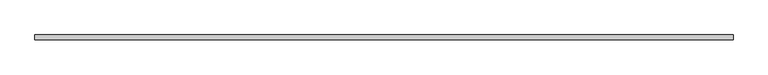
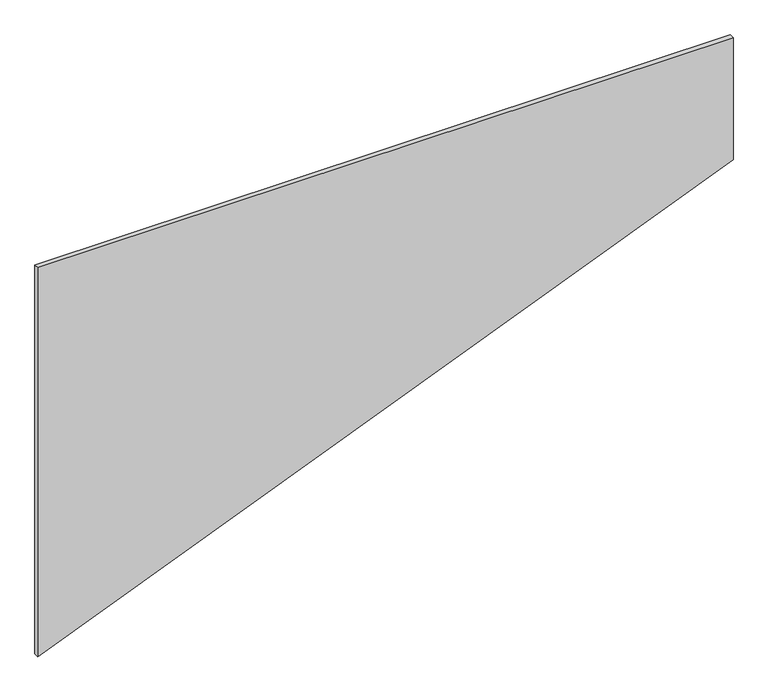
"""IFC4 building model written with IfcOpenShell, lengths in millimetres: plate geometry, 系統嵌板 : 玻璃 1.0cm."""

from ifc_helpers import new_model, si_unit, frame, origin, place, context, project, spatial, polyline, outline, extrude, source, transform, mapped, element, save


def plate_dcc8efd3(model_context):
    return source(origin(), model_context, "Body", "SweptSolid", [
        extrude(outline(polyline([(0.0, -750.0), (608.901049, 750.0), (887.5306048, 750.0), (887.5306048, -750.0), (0.0, -750.0)])), frame((0.0, -5.0, 0.0), z_axis=(0.0, 1.0, 0.0), x_axis=(0.0, 0.0, 1.0)), (0.0, 0.0, 1.0), 10.0),
    ])


if __name__ == "__main__":
    model = new_model("IFC4")
    model_context = context("Model", 3, world=origin())
    ifc_project = project(units=[si_unit("LENGTHUNIT", "METRE", prefix="MILLI")], contexts=[model_context])
    site = spatial("IfcSite", under=ifc_project)
    building = spatial("IfcBuilding", under=site)
    placement = place(None, origin())
    plate_shape = plate_dcc8efd3(model_context)
    element("IfcPlate", 1, ObjectType="系統嵌板 : 玻璃 1.0cm", at=placement, inside=building, context=model_context, shape_type="MappedRepresentation", body=[
        mapped(plate_shape, transform((0.0, 0.0, 0.0), x_axis=(1.0, 0.0, 0.0), y_axis=(0.0, 1.0, 0.0), z_axis=(0.0, 0.0, 1.0))),
    ])
    save(model, "model.ifc")
